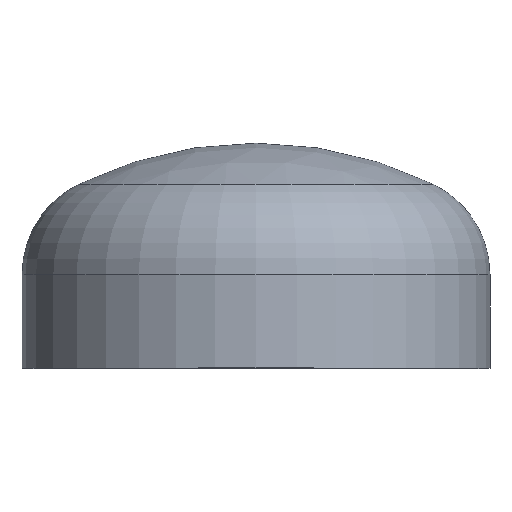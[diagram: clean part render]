
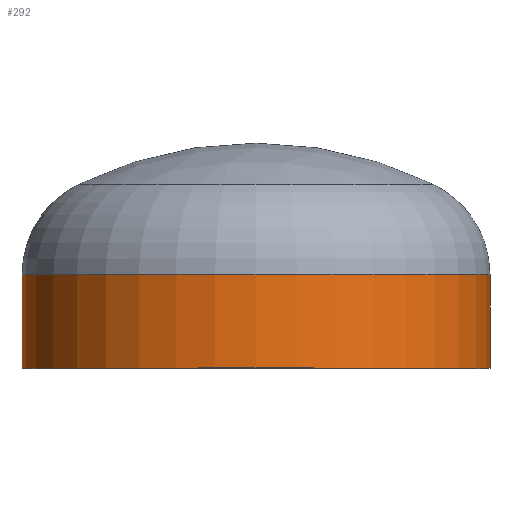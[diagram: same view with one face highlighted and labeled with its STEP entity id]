
A CAD part, top view. The second image highlights one B-rep face of the part: STEP entity #292.
In plain terms, the highlighted cylindrical face has radius 300 mm (diameter 600 mm), a partial arc.
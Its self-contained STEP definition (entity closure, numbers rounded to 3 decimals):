
#1 = ORIENTED_EDGE ( 'NONE', *, *, #142, .T. ) ;
#7 = EDGE_LOOP ( 'NONE', ( #20, #1, #85, #22 ) ) ;
#14 = CARTESIAN_POINT ( 'NONE',  ( 300., 0., 0. ) ) ;
#17 = CIRCLE ( 'NONE', #49, 300. ) ;
#20 = ORIENTED_EDGE ( 'NONE', *, *, #330, .T. ) ;
#22 = ORIENTED_EDGE ( 'NONE', *, *, #143, .F. ) ;
#30 = VERTEX_POINT ( 'NONE', #300 ) ;
#49 = AXIS2_PLACEMENT_3D ( 'NONE', #168, #171, #180 ) ;
#52 = CYLINDRICAL_SURFACE ( 'NONE', #55, 300. ) ;
#53 = AXIS2_PLACEMENT_3D ( 'NONE', #76, #72, #203 ) ;
#55 = AXIS2_PLACEMENT_3D ( 'NONE', #278, #239, #225 ) ;
#62 = VERTEX_POINT ( 'NONE', #264 ) ;
#72 = DIRECTION ( 'NONE',  ( 0., -1., 0. ) ) ;
#76 = CARTESIAN_POINT ( 'NONE',  ( 0., 120., 0. ) ) ;
#78 = VERTEX_POINT ( 'NONE', #257 ) ;
#85 = ORIENTED_EDGE ( 'NONE', *, *, #343, .F. ) ;
#114 = FACE_OUTER_BOUND ( 'NONE', #7, .T. ) ;
#142 = EDGE_CURVE ( 'NONE', #78, #62, #401, .T. ) ;
#143 = EDGE_CURVE ( 'NONE', #30, #235, #358, .T. ) ;
#168 = CARTESIAN_POINT ( 'NONE',  ( 0., 0., 0. ) ) ;
#171 = DIRECTION ( 'NONE',  ( 0., -1., 0. ) ) ;
#180 = DIRECTION ( 'NONE',  ( 1., 0., 0. ) ) ;
#203 = DIRECTION ( 'NONE',  ( 1., 0., 0. ) ) ;
#219 = VECTOR ( 'NONE', #324, 1000. ) ;
#225 = DIRECTION ( 'NONE',  ( 1., 0., 0. ) ) ;
#227 = VECTOR ( 'NONE', #336, 1000. ) ;
#235 = VERTEX_POINT ( 'NONE', #14 ) ;
#239 = DIRECTION ( 'NONE',  ( 0., -1., 0. ) ) ;
#257 = CARTESIAN_POINT ( 'NONE',  ( -300., 120., 0. ) ) ;
#264 = CARTESIAN_POINT ( 'NONE',  ( -300., 0., 0. ) ) ;
#278 = CARTESIAN_POINT ( 'NONE',  ( 0., 0., 0. ) ) ;
#292 = ADVANCED_FACE ( 'NONE', ( #114 ), #52, .T. ) ;
#300 = CARTESIAN_POINT ( 'NONE',  ( 300., 120., 0. ) ) ;
#324 = DIRECTION ( 'NONE',  ( 0., -1., 0. ) ) ;
#328 = CARTESIAN_POINT ( 'NONE',  ( 300., 0., 0. ) ) ;
#329 = CARTESIAN_POINT ( 'NONE',  ( -300., 0., 0. ) ) ;
#330 = EDGE_CURVE ( 'NONE', #30, #78, #371, .T. ) ;
#336 = DIRECTION ( 'NONE',  ( 0., -1., 0. ) ) ;
#343 = EDGE_CURVE ( 'NONE', #235, #62, #17, .T. ) ;
#358 = LINE ( 'NONE', #328, #219 ) ;
#371 = CIRCLE ( 'NONE', #53, 300. ) ;
#401 = LINE ( 'NONE', #329, #227 ) ;
